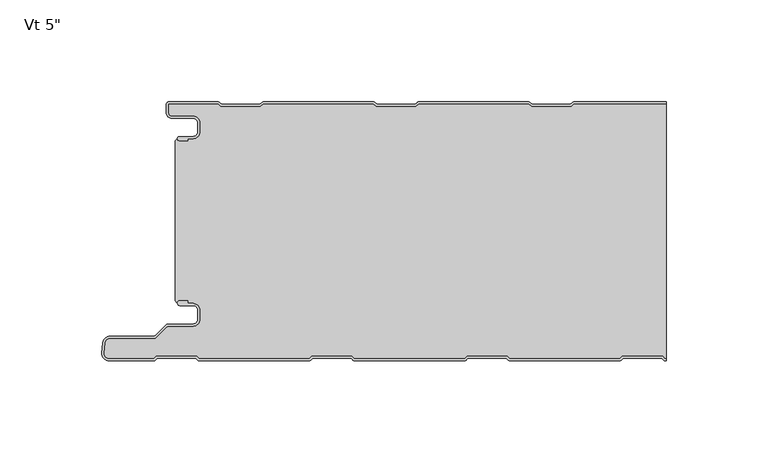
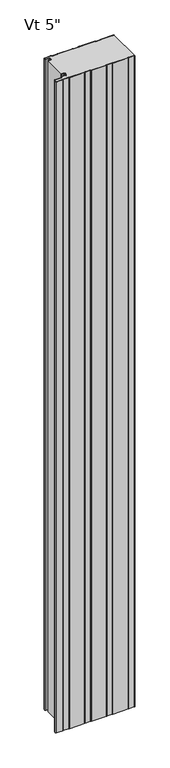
"""IFC4 building model written with IfcOpenShell, lengths in millimetres: plate geometry."""

from ifc_helpers import new_model, si_unit, point, frame, frame_2d, origin, origin_with_axes, place, context, project, spatial, polyline, circle_curve, trimmed, segment, composite_curve, outline, extrude, source, transform, mapped, element, save
from ifc_brep_helpers import plane_surface, cylinder_surface, revolved_surface, advanced_brep


def plate_f623210a(model_context):
    return source(origin(), model_context, "Body", "SolidModel", [
        advanced_brep(
        [(-118.368691, -17.0015034, 2400.0), (-119.3686883, -18.0015065, 2400.0), (-118.368691, -19.0014978, 2400.0), (-114.3684874, -19.0014979, 2400.0), (-114.3684874, -18.0015034, 2400.0), (-111.6762776, -18.0015034, 2400.0), (-108.3762819, -14.7015077, 2400.0), (-108.3762819, -10.3015164, 2400.0), (-111.6762774, -7.001521, 2400.0), (-122.0962563, -7.001521, 2400.0), (-123.8662505, -5.2315268, 2400.0), (-123.8662505, -0.9999791, 2400.0), (-99.3659738, -0.9999791, 2400.0), (-97.9803312, -2.2002182, 2400.0), (-78.6051649, -2.2002182, 2400.0), (-77.219532, -0.9999874, 2400.0), (-23.1661166, -0.9999874, 2400.0), (-21.7804836, -2.2002182, 2400.0), (-2.4053173, -2.2002182, 2400.0), (-1.0196844, -0.9999874, 2400.0), (53.033731, -0.9999874, 2400.0), (54.419364, -2.2002182, 2400.0), (73.7945303, -2.2002182, 2400.0), (75.1801632, -0.9999874, 2400.0), (120.3999998, -0.9999874, 2400.0), (120.3999998, 1.26e-05, 2400.0), (75.3293144, 1.26e-05, 2400.0), (74.4126975, -0.3417759, 2400.0), (73.4216499, -1.2002182, 2400.0), (54.7922444, -1.2002182, 2400.0), (53.8011968, -0.3417759, 2400.0), (52.8845799, 1.26e-05, 2400.0), (-0.8705332, 1.26e-05, 2400.0), (-1.7871501, -0.3417759, 2400.0), (-2.7781977, -1.2002182, 2400.0), (-21.4076032, -1.2002182, 2400.0), (-22.3986508, -0.3417759, 2400.0), (-23.3152677, 1.26e-05, 2400.0), (-77.0703808, 1.26e-05, 2400.0), (-77.9869977, -0.3417759, 2400.0), (-78.9780453, -1.2002182, 2400.0), (-97.6074508, -1.2002182, 2400.0), (-98.5984984, -0.3417759, 2400.0), (-99.5152067, 1.26e-05, 2400.0), (-123.4662543, 2.09e-05, 2400.0), (-124.8662505, -1.3999752, 2400.0), (-124.8662505, -5.2315268, 2400.0), (-122.0962563, -8.001521, 2400.0), (-111.6762774, -8.001521, 2400.0), (-109.3762819, -10.3015164, 2400.0), (-109.3762819, -14.7015077, 2400.0), (-111.6762776, -17.0015034, 2400.0), (-118.368691, -17.0015034, 0.0), (-111.6762776, -17.0015034, 0.0), (-109.3762819, -14.7015077, 0.0), (-109.3762819, -10.3015164, 0.0), (-111.6762774, -8.001521, 0.0), (-122.0962563, -8.001521, 0.0), (-124.8662505, -5.2315268, 0.0), (-124.8662505, -1.3999752, 0.0), (-123.4662543, 2.09e-05, 0.0), (-99.5151153, 2.09e-05, 0.0), (-98.5984984, -0.3417759, 0.0), (-97.6074508, -1.2002182, 0.0), (-78.9780453, -1.2002182, 0.0), (-77.9869977, -0.3417759, 0.0), (-77.0703808, 1.26e-05, 0.0), (-23.3152677, 1.26e-05, 0.0), (-22.3986508, -0.3417759, 0.0), (-21.4076032, -1.2002182, 0.0), (-2.7781977, -1.2002182, 0.0), (-1.7871501, -0.3417759, 0.0), (-0.8705332, 1.26e-05, 0.0), (52.8845799, 1.26e-05, 0.0), (53.8011968, -0.3417759, 0.0), (54.7922444, -1.2002182, 0.0), (73.4216499, -1.2002182, 0.0), (74.4126975, -0.3417759, 0.0), (75.3293144, 1.26e-05, 0.0), (120.3999998, 1.26e-05, 0.0), (120.3999998, -0.9999874, 0.0), (75.1801632, -0.9999874, 0.0), (73.7945303, -2.2002182, 0.0), (54.419364, -2.2002182, 0.0), (53.033731, -0.9999874, 0.0), (-1.0196844, -0.9999874, 0.0), (-2.4053173, -2.2002182, 0.0), (-21.7804836, -2.2002182, 0.0), (-23.1661166, -0.9999874, 0.0), (-77.219532, -0.9999874, 0.0), (-78.6051649, -2.2002182, 0.0), (-97.9803312, -2.2002182, 0.0), (-99.3659738, -0.9999791, 0.0), (-123.8662505, -0.9999791, 0.0), (-123.8662505, -5.2315268, 0.0), (-122.0962563, -7.001521, 0.0), (-111.6762774, -7.001521, 0.0), (-108.3762819, -10.3015164, 0.0), (-108.3762819, -14.7015077, 0.0), (-111.6762776, -18.0015034, 0.0), (-114.3684874, -18.0015034, 0.0), (-114.3684874, -19.0014979, 0.0), (-118.368691, -19.0014979, 0.0), (-119.3686882, -18.0015065, 0.0)],
        [
            (0, 1, circle_curve(frame((-118.368691, -18.0015006, 2400.0), z_axis=(0.0, 0.0, 1.0), x_axis=(1.0, 0.0, 0.0)), 0.9999973)),
            (1, 2, circle_curve(frame((-118.368691, -18.0015006, 2400.0), z_axis=(0.0, 0.0, 1.0), x_axis=(1.0, 0.0, 0.0)), 0.9999972)),
            (2, 3),
            (3, 4),
            (4, 5),
            (5, 6, circle_curve(frame((-111.6762776, -14.7015077, 2400.0), z_axis=(0.0, 0.0, 1.0), x_axis=(1.0, 0.0, 0.0)), 3.2999957)),
            (6, 7),
            (7, 8, circle_curve(frame((-111.6762774, -10.3015164, 2400.0), z_axis=(0.0, 0.0, 1.0), x_axis=(1.0, 0.0, 0.0)), 3.2999955)),
            (8, 9),
            (9, 10, circle_curve(frame((-122.0962563, -5.2315268, 2400.0), z_axis=(0.0, 0.0, -1.0), x_axis=(1.0, 0.0, 0.0)), 1.7699942)),
            (10, 11),
            (11, 12),
            (12, 13),
            (13, 14),
            (14, 15),
            (15, 16),
            (16, 17),
            (17, 18),
            (18, 19),
            (19, 20),
            (20, 21),
            (21, 22),
            (22, 23),
            (23, 24),
            (24, 25),
            (25, 26),
            (26, 27, circle_curve(frame((75.3293144, -1.3999846, 2400.0), z_axis=(0.0, 0.0, 1.0), x_axis=(1.0, 0.0, 0.0)), 1.3999972)),
            (27, 28),
            (28, 29),
            (29, 30),
            (30, 31, circle_curve(frame((52.8845799, -1.3999846, 2400.0), z_axis=(0.0, 0.0, 1.0), x_axis=(1.0, 0.0, 0.0)), 1.3999972)),
            (31, 32),
            (32, 33, circle_curve(frame((-0.8705332, -1.3999846, 2400.0), z_axis=(0.0, 0.0, 1.0), x_axis=(1.0, 0.0, 0.0)), 1.3999972)),
            (33, 34),
            (34, 35),
            (35, 36),
            (36, 37, circle_curve(frame((-23.3152677, -1.3999846, 2400.0), z_axis=(0.0, 0.0, 1.0), x_axis=(1.0, 0.0, 0.0)), 1.3999972)),
            (37, 38),
            (38, 39, circle_curve(frame((-77.0703808, -1.3999846, 2400.0), z_axis=(0.0, 0.0, 1.0), x_axis=(1.0, 0.0, 0.0)), 1.3999972)),
            (39, 40),
            (40, 41),
            (41, 42),
            (42, 43, circle_curve(frame((-99.5151153, -1.3999846, 2400.0), z_axis=(0.0, 0.0, 1.0), x_axis=(1.0, 0.0, 0.0)), 1.3999972)),
            (43, 44),
            (44, 45, circle_curve(frame((-123.4662543, -1.3999752, 2400.0), z_axis=(0.0, 0.0, 1.0), x_axis=(1.0, 0.0, 0.0)), 1.3999962)),
            (45, 46),
            (46, 47, circle_curve(frame((-122.0962563, -5.2315268, 2400.0), z_axis=(0.0, 0.0, 1.0), x_axis=(1.0, 0.0, 0.0)), 2.7699942)),
            (47, 48),
            (48, 49, circle_curve(frame((-111.6762774, -10.3015164, 2400.0), z_axis=(0.0, 0.0, -1.0), x_axis=(1.0, 0.0, 0.0)), 2.2999955)),
            (49, 50),
            (50, 51, circle_curve(frame((-111.6762776, -14.7015077, 2400.0), z_axis=(0.0, 0.0, -1.0), x_axis=(1.0, 0.0, 0.0)), 2.2999957)),
            (51, 0),
            (52, 53),
            (53, 54, circle_curve(frame((-111.6762776, -14.7015077, 0.0), z_axis=(0.0, 0.0, 1.0), x_axis=(1.0, 0.0, 0.0)), 2.2999957)),
            (54, 55),
            (55, 56, circle_curve(frame((-111.6762774, -10.3015164, 0.0), z_axis=(0.0, 0.0, 1.0), x_axis=(1.0, 0.0, 0.0)), 2.2999955)),
            (56, 57),
            (57, 58, circle_curve(frame((-122.0962563, -5.2315268, 0.0), z_axis=(0.0, 0.0, -1.0), x_axis=(1.0, 0.0, 0.0)), 2.7699942)),
            (58, 59),
            (59, 60, circle_curve(frame((-123.4662543, -1.3999752, 0.0), z_axis=(0.0, 0.0, -1.0), x_axis=(1.0, 0.0, 0.0)), 1.3999962)),
            (60, 61),
            (61, 62, circle_curve(frame((-99.5151153, -1.3999846, 0.0), z_axis=(0.0, 0.0, -1.0), x_axis=(1.0, 0.0, 0.0)), 1.3999972)),
            (62, 63),
            (63, 64),
            (64, 65),
            (65, 66, circle_curve(frame((-77.0703808, -1.3999846, 0.0), z_axis=(0.0, 0.0, -1.0), x_axis=(1.0, 0.0, 0.0)), 1.3999972)),
            (66, 67),
            (67, 68, circle_curve(frame((-23.3152677, -1.3999846, 0.0), z_axis=(0.0, 0.0, -1.0), x_axis=(1.0, 0.0, 0.0)), 1.3999972)),
            (68, 69),
            (69, 70),
            (70, 71),
            (71, 72, circle_curve(frame((-0.8705332, -1.3999846, 0.0), z_axis=(0.0, 0.0, -1.0), x_axis=(1.0, 0.0, 0.0)), 1.3999972)),
            (72, 73),
            (73, 74, circle_curve(frame((52.8845799, -1.3999846, 0.0), z_axis=(0.0, 0.0, -1.0), x_axis=(1.0, 0.0, 0.0)), 1.3999972)),
            (74, 75),
            (75, 76),
            (76, 77),
            (77, 78, circle_curve(frame((75.3293144, -1.3999846, 0.0), z_axis=(0.0, 0.0, -1.0), x_axis=(1.0, 0.0, 0.0)), 1.3999972)),
            (78, 79),
            (79, 80),
            (80, 81),
            (81, 82),
            (82, 83),
            (83, 84),
            (84, 85),
            (85, 86),
            (86, 87),
            (87, 88),
            (88, 89),
            (89, 90),
            (90, 91),
            (91, 92),
            (92, 93),
            (93, 94),
            (94, 95, circle_curve(frame((-122.0962563, -5.2315268, 0.0), z_axis=(0.0, 0.0, 1.0), x_axis=(1.0, 0.0, 0.0)), 1.7699942)),
            (95, 96),
            (96, 97, circle_curve(frame((-111.6762774, -10.3015164, 0.0), z_axis=(0.0, 0.0, -1.0), x_axis=(1.0, 0.0, 0.0)), 3.2999955)),
            (97, 98),
            (98, 99, circle_curve(frame((-111.6762776, -14.7015077, 0.0), z_axis=(0.0, 0.0, -1.0), x_axis=(1.0, 0.0, 0.0)), 3.2999957)),
            (99, 100),
            (100, 101),
            (101, 102),
            (102, 103, circle_curve(frame((-118.368691, -18.0015006, 0.0), z_axis=(0.0, 0.0, -1.0), x_axis=(1.0, 0.0, 0.0)), 0.9999972)),
            (103, 52, circle_curve(frame((-118.368691, -18.0015006, 0.0), z_axis=(0.0, 0.0, -1.0), x_axis=(1.0, 0.0, 0.0)), 0.9999973)),
            (24, 80),
            (79, 25),
            (51, 53),
            (52, 0),
            (50, 54),
            (49, 55),
            (48, 56),
            (47, 57),
            (46, 58),
            (45, 59),
            (44, 60),
            (43, 61),
            (78, 26),
            (42, 62),
            (41, 63),
            (40, 64),
            (38, 66),
            (65, 39),
            (36, 68),
            (67, 37),
            (77, 27),
            (76, 28),
            (31, 73),
            (72, 32),
            (71, 33),
            (34, 70),
            (69, 35),
            (30, 74),
            (29, 75),
            (2, 102),
            (101, 3),
            (1, 103),
            (23, 81),
            (22, 82),
            (21, 83),
            (20, 84),
            (19, 85),
            (18, 86),
            (17, 87),
            (16, 88),
            (15, 89),
            (14, 90),
            (13, 91),
            (12, 92),
            (11, 93),
            (10, 94),
            (9, 95),
            (8, 96),
            (7, 97),
            (6, 98),
            (5, 99),
            (4, 100),
        ],
        [
            plane_surface(frame((184.4000002, 1.26e-05, 2400.0), z_axis=(0.0, 0.0, 1.0), x_axis=(0.0, 1.0, 0.0))),
            plane_surface(frame((184.4000002, 1.26e-05, 0.0), z_axis=(0.0, 0.0, -1.0), x_axis=(0.0, 1.0, 0.0))),
            plane_surface(frame((120.3999998, -136.9999874, 2400.0), z_axis=(1.0, 0.0, 0.0), x_axis=(0.0, 0.0, -1.0))),
            plane_surface(frame((-118.368691, -17.0015034, 2400.0), z_axis=(0.0, 1.0, 0.0), x_axis=(0.0, 0.0, -1.0))),
            revolved_surface(polyline([(-109.37628190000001, -14.7015077, 0.0), (-109.37628190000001, -14.7015077, 2400.0)]), (-111.6762776, -14.7015077, 2400.0), (0.0, 0.0, -1.0)),
            plane_surface(frame((-109.3762819, -14.7015077, 2400.0), z_axis=(-1.0, 0.0, 0.0), x_axis=(0.0, 0.0, -1.0))),
            revolved_surface(polyline([(-109.37628190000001, -10.3015164, 0.0), (-109.37628190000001, -10.3015164, 2400.0)]), (-111.6762774, -10.3015164, 2400.0), (0.0, 0.0, -1.0)),
            plane_surface(frame((-111.6762774, -8.001521, 2400.0), z_axis=(0.0, -1.0, 0.0), x_axis=(0.0, 0.0, -1.0))),
            cylinder_surface(frame((-122.0962563, -5.2315268, 2400.0), z_axis=(0.0, 0.0, 1.0), x_axis=(1.0, 0.0, 0.0)), 2.7699942),
            plane_surface(frame((-124.8662505, -5.2315268, 2400.0), z_axis=(-1.0, 0.0, 0.0), x_axis=(0.0, 0.0, -1.0))),
            cylinder_surface(frame((-123.4662543, -1.3999752, 2400.0), z_axis=(0.0, 0.0, 1.0), x_axis=(1.0, 0.0, 0.0)), 1.3999962),
            plane_surface(frame((-123.4662543, 2.09e-05, 2400.0), z_axis=(0.0, 1.0, 0.0), x_axis=(0.0, 0.0, -1.0))),
            plane_surface(frame((75.3293144, 1.26e-05, 2400.0), z_axis=(0.0, 1.0, 0.0), x_axis=(0.0, 0.0, -1.0))),
            cylinder_surface(frame((-99.5151153, -1.3999846, 2400.0), z_axis=(0.0, 0.0, 1.0), x_axis=(1.0, 0.0, 0.0)), 1.3999972),
            plane_surface(frame((-98.5984984, -0.3417759, 2400.0), z_axis=(0.6547276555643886, 0.755864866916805, 0.0), x_axis=(0.0, 0.0, -1.0))),
            plane_surface(frame((-88.2927481, -1.2002182, 2400.0), z_axis=(0.0, 1.0, 0.0), x_axis=(0.0, 0.0, -1.0))),
            cylinder_surface(frame((-77.0703808, -1.3999846, 2400.0), z_axis=(0.0, 0.0, 1.0), x_axis=(1.0, 0.0, 0.0)), 1.3999972),
            plane_surface(frame((-78.9780453, -1.2002182, 2400.0), z_axis=(-0.6547276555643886, 0.755864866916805, 0.0), x_axis=(0.0, 0.0, -1.0))),
            cylinder_surface(frame((-23.3152677, -1.3999846, 2400.0), z_axis=(0.0, 0.0, 1.0), x_axis=(1.0, 0.0, 0.0)), 1.3999972),
            cylinder_surface(frame((75.3293144, -1.3999846, 2400.0), z_axis=(0.0, 0.0, 1.0), x_axis=(1.0, 0.0, 0.0)), 1.3999972),
            plane_surface(frame((73.4216499, -1.2002182, 2400.0), z_axis=(-0.6547276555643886, 0.755864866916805, 0.0), x_axis=(0.0, 0.0, -1.0))),
            plane_surface(frame((-0.8705332, 1.26e-05, 2400.0), z_axis=(0.0, 1.0, 0.0), x_axis=(0.0, 0.0, -1.0))),
            cylinder_surface(frame((-0.8705332, -1.3999846, 2400.0), z_axis=(0.0, 0.0, 1.0), x_axis=(1.0, 0.0, 0.0)), 1.3999972),
            plane_surface(frame((-12.0929005, -1.2002182, 2400.0), z_axis=(0.0, 1.0, 0.0), x_axis=(0.0, 0.0, -1.0))),
            plane_surface(frame((-22.3986508, -0.3417759, 2400.0), z_axis=(0.6547276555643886, 0.755864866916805, 0.0), x_axis=(0.0, 0.0, -1.0))),
            plane_surface(frame((-2.7781977, -1.2002182, 2400.0), z_axis=(-0.6547276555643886, 0.755864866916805, 0.0), x_axis=(0.0, 0.0, -1.0))),
            plane_surface(frame((-77.0703808, 1.26e-05, 2400.0), z_axis=(0.0, 1.0, 0.0), x_axis=(0.0, 0.0, -1.0))),
            cylinder_surface(frame((52.8845799, -1.3999846, 2400.0), z_axis=(0.0, 0.0, 1.0), x_axis=(1.0, 0.0, 0.0)), 1.3999972),
            plane_surface(frame((53.8011968, -0.3417759, 2400.0), z_axis=(0.6547276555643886, 0.755864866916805, 0.0), x_axis=(0.0, 0.0, -1.0))),
            plane_surface(frame((64.1069471, -1.2002182, 2400.0), z_axis=(0.0, 1.0, 0.0), x_axis=(0.0, 0.0, -1.0))),
            plane_surface(frame((-114.3684874, -19.0014979, 2400.0), z_axis=(0.0, -1.0, 0.0), x_axis=(0.0, 0.0, -1.0))),
            cylinder_surface(frame((-118.368691, -18.0015006, 2400.0), z_axis=(0.0, 0.0, 1.0), x_axis=(1.0, 0.0, 0.0)), 0.9999972),
            cylinder_surface(frame((-118.368691, -18.0015006, 2400.0), z_axis=(0.0, 0.0, 1.0), x_axis=(1.0, 0.0, 0.0)), 0.9999973),
            plane_surface(frame((129.2335786, -0.9999874, 2400.0), z_axis=(0.0, -1.0, 0.0), x_axis=(0.0, 0.0, -1.0))),
            plane_surface(frame((75.1801632, -0.9999874, 2400.0), z_axis=(0.6547276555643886, -0.755864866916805, 0.0), x_axis=(0.0, 0.0, -1.0))),
            plane_surface(frame((73.7945303, -2.2002182, 2400.0), z_axis=(0.0, -1.0, 0.0), x_axis=(0.0, 0.0, -1.0))),
            plane_surface(frame((54.419364, -2.2002182, 2400.0), z_axis=(-0.6547276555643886, -0.755864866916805, 0.0), x_axis=(0.0, 0.0, -1.0))),
            plane_surface(frame((53.033731, -0.9999874, 2400.0), z_axis=(0.0, -1.0, 0.0), x_axis=(0.0, 0.0, -1.0))),
            plane_surface(frame((-1.0196844, -0.9999874, 2400.0), z_axis=(0.6547276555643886, -0.755864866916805, 0.0), x_axis=(0.0, 0.0, -1.0))),
            plane_surface(frame((-2.4053173, -2.2002182, 2400.0), z_axis=(0.0, -1.0, 0.0), x_axis=(0.0, 0.0, -1.0))),
            plane_surface(frame((-21.7804836, -2.2002182, 2400.0), z_axis=(-0.6547276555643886, -0.755864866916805, 0.0), x_axis=(0.0, 0.0, -1.0))),
            plane_surface(frame((-23.1661166, -0.9999874, 2400.0), z_axis=(0.0, -1.0, 0.0), x_axis=(0.0, 0.0, -1.0))),
            plane_surface(frame((-77.219532, -0.9999874, 2400.0), z_axis=(0.6547276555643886, -0.755864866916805, 0.0), x_axis=(0.0, 0.0, -1.0))),
            plane_surface(frame((-78.6051649, -2.2002182, 2400.0), z_axis=(0.0, -1.0, 0.0), x_axis=(0.0, 0.0, -1.0))),
            plane_surface(frame((-97.9803312, -2.2002182, 2400.0), z_axis=(-0.6547276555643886, -0.755864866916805, 0.0), x_axis=(0.0, 0.0, -1.0))),
            plane_surface(frame((-99.3659738, -0.9999791, 2400.0), z_axis=(0.0, -1.0, 0.0), x_axis=(0.0, 0.0, -1.0))),
            plane_surface(frame((-123.8662505, -0.9999791, 2400.0), z_axis=(1.0, 0.0, 0.0), x_axis=(0.0, 0.0, -1.0))),
            revolved_surface(polyline([(-120.3262621, -5.2315268, 0.0), (-120.3262621, -5.2315268, 2400.0)]), (-122.0962563, -5.2315268, 2400.0), (0.0, 0.0, -1.0)),
            plane_surface(frame((-122.0962563, -7.001521, 2400.0), z_axis=(0.0, 1.0, 0.0), x_axis=(0.0, 0.0, -1.0))),
            cylinder_surface(frame((-111.6762774, -10.3015164, 2400.0), z_axis=(0.0, 0.0, 1.0), x_axis=(1.0, 0.0, 0.0)), 3.2999955),
            plane_surface(frame((-108.3762819, -10.3015164, 2400.0), z_axis=(1.0, 0.0, 0.0), x_axis=(0.0, 0.0, -1.0))),
            cylinder_surface(frame((-111.6762776, -14.7015077, 2400.0), z_axis=(0.0, 0.0, 1.0), x_axis=(1.0, 0.0, 0.0)), 3.2999957),
            plane_surface(frame((-111.6762776, -18.0015034, 2400.0), z_axis=(0.0, -1.0, 0.0), x_axis=(0.0, 0.0, -1.0))),
            plane_surface(frame((-114.3684874, -18.0015034, 2400.0), z_axis=(1.0, 0.0, 0.0), x_axis=(0.0, 0.0, -1.0))),
        ],
        [
            (0, [[1, 2, 3, 4, 5, 6, 7, 8, 9, 10, 11, 12, 13, 14, 15, 16, 17, 18, 19, 20, 21, 22, 23, 24, 25, 26, 27, 28, 29, 30, 31, 32, 33, 34, 35, 36, 37, 38, 39, 40, 41, 42, 43, 44, 45, 46, 47, 48, 49, 50, 51, 52]]),
            (1, [[53, 54, 55, 56, 57, 58, 59, 60, 61, 62, 63, 64, 65, 66, 67, 68, 69, 70, 71, 72, 73, 74, 75, 76, 77, 78, 79, 80, 81, 82, 83, 84, 85, 86, 87, 88, 89, 90, 91, 92, 93, 94, 95, 96, 97, 98, 99, 100, 101, 102, 103, 104]]),
            (2, [[105, -80, 106, -25]]),
            (3, [[107, -53, 108, -52]]),
            (4, [[109, -54, -107, -51]]),
            (5, [[110, -55, -109, -50]]),
            (6, [[111, -56, -110, -49]]),
            (7, [[112, -57, -111, -48]]),
            (8, [[113, -58, -112, -47]]),
            (9, [[114, -59, -113, -46]]),
            (10, [[115, -60, -114, -45]]),
            (11, [[116, -61, -115, -44]]),
            (12, [[-26, -106, -79, 117]]),
            (13, [[118, -62, -116, -43]]),
            (14, [[119, -63, -118, -42]]),
            (15, [[120, -64, -119, -41]]),
            (16, [[121, -66, 122, -39]]),
            (17, [[-122, -65, -120, -40]]),
            (18, [[123, -68, 124, -37]]),
            (19, [[-117, -78, 125, -27]]),
            (20, [[-125, -77, 126, -28]]),
            (21, [[127, -73, 128, -32]]),
            (22, [[-128, -72, 129, -33]]),
            (23, [[130, -70, 131, -35]]),
            (24, [[-131, -69, -123, -36]]),
            (25, [[-129, -71, -130, -34]]),
            (26, [[-124, -67, -121, -38]]),
            (27, [[132, -74, -127, -31]]),
            (28, [[133, -75, -132, -30]]),
            (29, [[-126, -76, -133, -29]]),
            (30, [[134, -102, 135, -3]]),
            (31, [[136, -103, -134, -2]]),
            (32, [[-108, -104, -136, -1]]),
            (33, [[-81, -105, -24, 137]]),
            (34, [[138, -82, -137, -23]]),
            (35, [[139, -83, -138, -22]]),
            (36, [[140, -84, -139, -21]]),
            (37, [[141, -85, -140, -20]]),
            (38, [[142, -86, -141, -19]]),
            (39, [[143, -87, -142, -18]]),
            (40, [[144, -88, -143, -17]]),
            (41, [[145, -89, -144, -16]]),
            (42, [[146, -90, -145, -15]]),
            (43, [[147, -91, -146, -14]]),
            (44, [[148, -92, -147, -13]]),
            (45, [[149, -93, -148, -12]]),
            (46, [[150, -94, -149, -11]]),
            (47, [[151, -95, -150, -10]]),
            (48, [[152, -96, -151, -9]]),
            (49, [[153, -97, -152, -8]]),
            (50, [[154, -98, -153, -7]]),
            (51, [[155, -99, -154, -6]]),
            (52, [[156, -100, -155, -5]]),
            (53, [[-135, -101, -156, -4]]),
        ],
    ),
        extrude(outline(composite_curve([segment(polyline([(-131.0415932, -126.9997253), (-152.8521175, -126.9997253)]), True, "CONTINUOUS"), segment(trimmed(circle_curve(frame_2d((-152.8521175, -123.429486)), 3.5702393), [point((-152.8521175, -126.9997253))], [point((-156.4087619, -123.1182156))], False, "CARTESIAN"), True, "CONTINUOUS"), segment(polyline([(-156.4087619, -123.1182156), (-155.9690674, -118.094169)]), True, "CONTINUOUS"), segment(trimmed(circle_curve(frame_2d((-152.3198391, -118.7049701)), 3.6999926), [point((-155.9690674, -118.094169))], [point((-152.3198391, -115.0049775))], False, "CARTESIAN"), True, "CONTINUOUS"), segment(polyline([(-152.3198391, -115.0049775), (-131.1773995, -115.0049775)]), True, "CONTINUOUS"), segment(trimmed(circle_curve(frame_2d((-131.1773995, -113.7049801)), 1.2999974), [point((-131.1773995, -115.0049775))], [point((-130.2581626, -114.6242171))], True, "CARTESIAN"), True, "CONTINUOUS"), segment(polyline([(-130.2581626, -114.6242171), (-125.4297451, -109.7957996)]), True, "CONTINUOUS"), segment(trimmed(circle_curve(frame_2d((-123.5205606, -111.7049841)), 2.6999946), [point((-125.4297451, -109.7957996))], [point((-123.5205606, -109.0049895))], False, "CARTESIAN"), True, "CONTINUOUS"), segment(polyline([(-123.5205606, -109.0049895), (-111.7096715, -109.0049895)]), True, "CONTINUOUS"), segment(trimmed(circle_curve(frame_2d((-111.7096715, -106.6549942)), 2.3499953), [point((-111.7096715, -109.0049895))], [point((-109.3596762, -106.6549942))], True, "CARTESIAN"), True, "CONTINUOUS"), segment(polyline([(-109.3596762, -106.6549942), (-109.3596762, -102.255003)]), True, "CONTINUOUS"), segment(trimmed(circle_curve(frame_2d((-111.7096715, -102.255003)), 2.3499953), [point((-109.3596762, -102.255003))], [point((-111.7096715, -99.9050077))], True, "CARTESIAN"), True, "CONTINUOUS"), segment(polyline([(-111.7096715, -99.9050077), (-118.2289777, -99.9050077)]), True, "CONTINUOUS"), segment(trimmed(circle_curve(frame_2d((-118.1686906, -98.7065254)), 1.1999976), [point((-118.2289777, -99.9050077))], [point((-119.3683, -98.6760035))], False, "CARTESIAN"), True, "CONTINUOUS"), segment(trimmed(circle_curve(frame_2d((-118.1686906, -98.7065254)), 1.1999976), [point((-119.3683, -98.6760035))], [point((-118.167176, -97.5065288))], False, "CARTESIAN"), True, "CONTINUOUS"), segment(polyline([(-118.167176, -97.5065288), (-114.4087826, -97.5065288), (-114.4087826, -98.9050077), (-111.7096715, -98.9050077)]), True, "CONTINUOUS"), segment(trimmed(circle_curve(frame_2d((-111.7096715, -102.255003)), 3.3499953), [point((-111.7096715, -98.9050077))], [point((-108.3596762, -102.255003))], False, "CARTESIAN"), True, "CONTINUOUS"), segment(polyline([(-108.3596762, -102.255003), (-108.3596762, -106.6549942)]), True, "CONTINUOUS"), segment(trimmed(circle_curve(frame_2d((-111.7096715, -106.6549942)), 3.3499953), [point((-108.3596762, -106.6549942))], [point((-111.7096715, -110.0049895))], False, "CARTESIAN"), True, "CONTINUOUS"), segment(polyline([(-111.7096715, -110.0049895), (-123.5205606, -110.0049895)]), True, "CONTINUOUS"), segment(trimmed(circle_curve(frame_2d((-123.5205606, -111.7049841)), 1.6999946), [point((-123.5205606, -110.0049895))], [point((-124.7226383, -110.5029064))], True, "CARTESIAN"), True, "CONTINUOUS"), segment(polyline([(-124.7226383, -110.5029064), (-130.2247094, -116.0049775), (-152.3198391, -116.0049775)]), True, "CONTINUOUS"), segment(trimmed(circle_curve(frame_2d((-152.3198391, -118.7049701)), 2.6999926), [point((-152.3198391, -116.0049775))], [point((-154.9765707, -118.2235795))], True, "CARTESIAN"), True, "CONTINUOUS"), segment(polyline([(-154.9765707, -118.2235795), (-155.4125697, -123.2054003)]), True, "CONTINUOUS"), segment(trimmed(circle_curve(frame_2d((-152.8521175, -123.429486)), 2.5702393), [point((-155.4125697, -123.2054003))], [point((-152.8521175, -125.9997253))], True, "CARTESIAN"), True, "CONTINUOUS"), segment(polyline([(-152.8521175, -125.9997253), (-130.879096, -125.9997253), (-129.6791275, -124.7997567), (-109.959715, -124.7997567), (-108.7594843, -125.9999874), (-54.6793525, -125.9999874), (-53.4791218, -124.7997567), (-33.7597093, -124.7997567), (-32.5594786, -125.9999874), (21.5206532, -125.9999874), (22.7208839, -124.7997567), (42.4402964, -124.7997567), (43.6405271, -125.9999874), (97.7206589, -125.9999874), (98.9208896, -124.7997567), (118.6403021, -124.7997567), (119.8405328, -125.9999874), (120.3999998, -125.9999874), (120.3999998, -126.9999874), (120.010284, -126.9999874)]), True, "CONTINUOUS"), segment(trimmed(circle_curve(frame_2d((120.0026306, -125.6000112)), 1.3999972), [point((120.010284, -126.9999874))], [point((118.9585798, -126.5327223))], False, "CARTESIAN"), True, "CONTINUOUS"), segment(polyline([(118.9585798, -126.5327223), (118.2256142, -125.7997567), (99.334945, -125.7997567), (98.6020004, -126.5327014)]), True, "CONTINUOUS"), segment(trimmed(circle_curve(frame_2d((97.5579496, -125.5999902)), 1.3999972), [point((98.6020004, -126.5327014))], [point((97.5579496, -126.9999874))], False, "CARTESIAN"), True, "CONTINUOUS"), segment(polyline([(97.5579496, -126.9999874), (43.8104364, -126.9999874)]), True, "CONTINUOUS"), segment(trimmed(circle_curve(frame_2d((43.802783, -125.6000112)), 1.3999972), [point((43.8104364, -126.9999874))], [point((42.7587322, -126.5327223))], False, "CARTESIAN"), True, "CONTINUOUS"), segment(polyline([(42.7587322, -126.5327223), (42.0257666, -125.7997567), (23.1350974, -125.7997567), (22.4021528, -126.5327014)]), True, "CONTINUOUS"), segment(trimmed(circle_curve(frame_2d((21.358102, -125.5999902)), 1.3999972), [point((22.4021528, -126.5327014))], [point((21.358102, -126.9999874))], False, "CARTESIAN"), True, "CONTINUOUS"), segment(polyline([(21.358102, -126.9999874), (-32.3894112, -126.9999874)]), True, "CONTINUOUS"), segment(trimmed(circle_curve(frame_2d((-32.3970646, -125.6000112)), 1.3999972), [point((-32.3894112, -126.9999874))], [point((-33.4411154, -126.5327223))], False, "CARTESIAN"), True, "CONTINUOUS"), segment(polyline([(-33.4411154, -126.5327223), (-34.174081, -125.7997567), (-53.0647502, -125.7997567), (-53.7976948, -126.5327014)]), True, "CONTINUOUS"), segment(trimmed(circle_curve(frame_2d((-54.8417456, -125.5999902)), 1.3999972), [point((-53.7976948, -126.5327014))], [point((-54.8417456, -126.9999874))], False, "CARTESIAN"), True, "CONTINUOUS"), segment(polyline([(-54.8417456, -126.9999874), (-108.5892588, -126.9999874)]), True, "CONTINUOUS"), segment(trimmed(circle_curve(frame_2d((-108.5969122, -125.6000112)), 1.3999972), [point((-108.5892588, -126.9999874))], [point((-109.640963, -126.5327223))], False, "CARTESIAN"), True, "CONTINUOUS"), segment(polyline([(-109.640963, -126.5327223), (-110.3739286, -125.7997567), (-129.2649139, -125.7997567), (-129.9976402, -126.532483)]), True, "CONTINUOUS"), segment(trimmed(circle_curve(frame_2d((-131.0415932, -125.5998592)), 1.3998661), [point((-129.9976402, -126.532483))], [point((-131.0415932, -126.9997253))], False, "CARTESIAN"), True, "CONTINUOUS")], self_intersect=False)), origin_with_axes(), (0.0, 0.0, 1.0), 2400.0),
        extrude(outline(composite_curve([segment(polyline([(-119.3683, -98.6760035), (-120.3999998, -97.6443036), (-120.3999998, -19.0328183), (-119.3686882, -18.0015066)]), True, "CONTINUOUS"), segment(trimmed(circle_curve(frame_2d((-118.368691, -18.0015007)), 0.9999972), [point((-119.3686882, -18.0015066))], [point((-118.368691, -19.0014979))], True, "CARTESIAN"), True, "CONTINUOUS"), segment(polyline([(-118.368691, -19.0014979), (-114.3684873, -19.0014979), (-114.3684873, -18.0015034), (-111.6762775, -18.0015034)]), True, "CONTINUOUS"), segment(trimmed(circle_curve(frame_2d((-111.6762775, -14.7015077)), 3.2999957), [point((-111.6762775, -18.0015034))], [point((-108.3762818, -14.7015077))], True, "CARTESIAN"), True, "CONTINUOUS"), segment(polyline([(-108.3762818, -14.7015077), (-108.3762818, -10.3015164)]), True, "CONTINUOUS"), segment(trimmed(circle_curve(frame_2d((-111.6762777, -10.3015164)), 3.2999959), [point((-108.3762818, -10.3015164))], [point((-111.6762777, -7.0015206))], True, "CARTESIAN"), True, "CONTINUOUS"), segment(polyline([(-111.6762777, -7.0015206), (-122.0962562, -7.0015206)]), True, "CONTINUOUS"), segment(trimmed(circle_curve(frame_2d((-122.0962562, -5.2315264)), 1.7699942), [point((-122.0962562, -7.0015206))], [point((-123.8662504, -5.2315264))], False, "CARTESIAN"), True, "CONTINUOUS"), segment(polyline([(-123.8662504, -5.2315264), (-123.8662504, -0.9999791), (-99.3659738, -0.9999791), (-97.9803312, -2.2002182), (-78.6051649, -2.2002182), (-77.2195319, -0.9999874), (-23.1661165, -0.9999874), (-21.7804836, -2.2002182), (-2.4053173, -2.2002182), (-1.0196843, -0.9999874), (53.0337311, -0.9999874), (54.419364, -2.2002182), (73.7945303, -2.2002182), (75.1801633, -0.9999874), (120.3999998, -0.9999874), (120.3999998, -125.9999874), (119.8405328, -125.9999874), (118.6403021, -124.7997567), (98.9208896, -124.7997567), (97.7206589, -125.9999874), (43.6405271, -125.9999874), (42.4402964, -124.7997567), (22.7208839, -124.7997567), (21.5206532, -125.9999874), (-32.5594786, -125.9999874), (-33.7597093, -124.7997567), (-53.4791218, -124.7997567), (-54.6793525, -125.9999874), (-108.7594843, -125.9999874), (-109.959715, -124.7997567), (-129.6791275, -124.7997567), (-130.879096, -125.9997253), (-152.8521175, -125.9997253)]), True, "CONTINUOUS"), segment(trimmed(circle_curve(frame_2d((-152.8521175, -123.429486)), 2.5702393), [point((-152.8521175, -125.9997253))], [point((-155.4125697, -123.2054003))], False, "CARTESIAN"), True, "CONTINUOUS"), segment(polyline([(-155.4125697, -123.2054003), (-154.9765707, -118.2235795)]), True, "CONTINUOUS"), segment(trimmed(circle_curve(frame_2d((-152.3198391, -118.7049701)), 2.6999926), [point((-154.9765707, -118.2235795))], [point((-152.3198391, -116.0049775))], False, "CARTESIAN"), True, "CONTINUOUS"), segment(polyline([(-152.3198391, -116.0049775), (-130.2247094, -116.0049775), (-124.7226383, -110.5029064)]), True, "CONTINUOUS"), segment(trimmed(circle_curve(frame_2d((-123.5205606, -111.7049841)), 1.6999946), [point((-124.7226383, -110.5029064))], [point((-123.5205606, -110.0049895))], False, "CARTESIAN"), True, "CONTINUOUS"), segment(polyline([(-123.5205606, -110.0049895), (-111.7096715, -110.0049895)]), True, "CONTINUOUS"), segment(trimmed(circle_curve(frame_2d((-111.7096715, -106.6549942)), 3.3499953), [point((-111.7096715, -110.0049895))], [point((-108.3596762, -106.6549942))], True, "CARTESIAN"), True, "CONTINUOUS"), segment(polyline([(-108.3596762, -106.6549942), (-108.3596762, -102.255003)]), True, "CONTINUOUS"), segment(trimmed(circle_curve(frame_2d((-111.7096715, -102.255003)), 3.3499953), [point((-108.3596762, -102.255003))], [point((-111.7096715, -98.9050077))], True, "CARTESIAN"), True, "CONTINUOUS"), segment(polyline([(-111.7096715, -98.9050077), (-114.4087826, -98.9050077), (-114.4087826, -97.5065288), (-118.167176, -97.5065288)]), True, "CONTINUOUS"), segment(trimmed(circle_curve(frame_2d((-118.1686906, -98.7065254)), 1.1999976), [point((-118.167176, -97.5065288))], [point((-119.3683, -98.6760035))], True, "CARTESIAN"), True, "CONTINUOUS")], self_intersect=False)), origin_with_axes(), (0.0, 0.0, 1.0), 2400.0),
    ])


if __name__ == "__main__":
    model = new_model("IFC4")
    model_context = context("Model", 3, world=origin())
    ifc_project = project(units=[si_unit("LENGTHUNIT", "METRE", prefix="MILLI")], contexts=[model_context])
    site = spatial("IfcSite", under=ifc_project)
    building = spatial("IfcBuilding", under=site)
    placement = place(None, origin())
    plate_shape = plate_f623210a(model_context)
    element("IfcPlate", 1, ObjectType="KIP-24-Karrier-KP-R19-CP-Vt-SL3-8in_SL : Vt 5\"", at=placement, inside=building, context=model_context, shape_type="MappedRepresentation", body=[
        mapped(plate_shape, transform((0.0, 0.0, 0.0), x_axis=(1.0, 0.0, 0.0), y_axis=(0.0, 1.0, 0.0), z_axis=(0.0, 0.0, 1.0))),
    ])
    save(model, "model.ifc")
